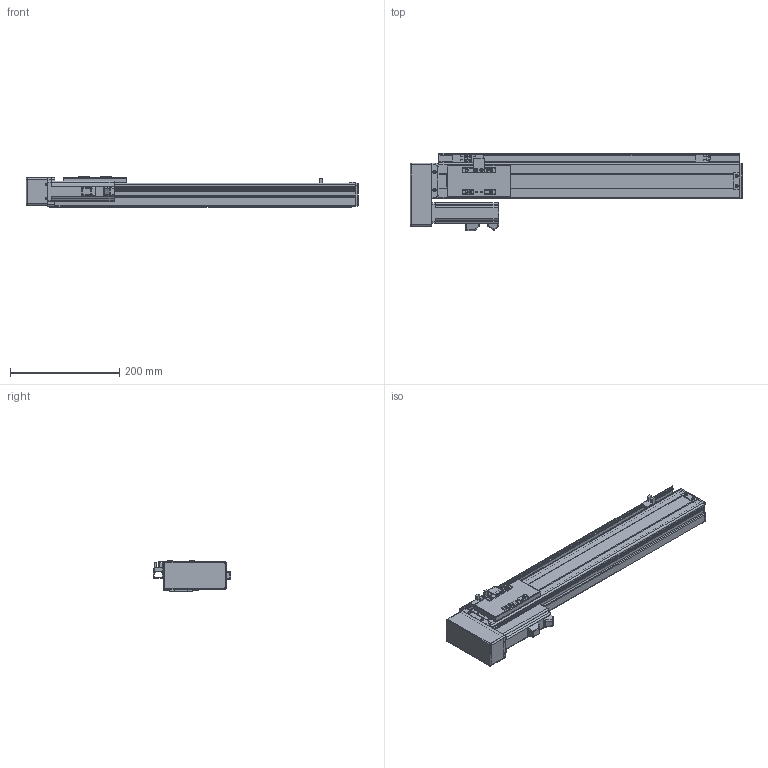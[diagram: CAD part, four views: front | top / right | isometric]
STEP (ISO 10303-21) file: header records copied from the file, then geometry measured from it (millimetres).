
FILE_DESCRIPTION (( 'STEP AP203' ), '1' );
FILE_NAME ('VT6-S400-BL.STEP', '2016-06-17T09:49:02', ( '' ), ( '' ), 'SwSTEP 2.0', 'SolidWorks 2013', '' );
FILE_SCHEMA (( 'CONFIG_CONTROL_DESIGN' ));
Length unit declared in the file: millimetre
Products named in the file (17): T6-BMRLヶ傷裔揤啣; T6-揤輸; T6-BMRL肮祭湍謫欶; T6-覜茼え; T6-BRL萇儂假蚾啣; T6-綴傷裔; 侂狟100W MSMD012G1V; EE-XS674; VT6-S400-BL; ET6-BLRM絳寢_俴最400; ET6-BC耜啣_400; ET6-BLRM滅鳥湍_400; ET6-BC癹弇羲壽羞_400; ET6-BLRM佪裝_400; T6-賑雄殤; T6-BMLRヶ傷裔; T6-裔啣
Assembly tree (19 placements, depth 2):
  VT6-S400-BL
    ET6-BC耜啣_400  x2
    ET6-BC癹弇羲壽羞_400
    T6-賑雄殤
    T6-裔啣
    T6-揤輸
    T6-覜茼え
    T6-綴傷裔
    EE-XS674  x3
    ET6-BLRM絳寢_俴最400
    ET6-BLRM滅鳥湍_400
    ET6-BLRM佪裝_400
    T6-BMLRヶ傷裔
    T6-BMRLヶ傷裔揤啣
    T6-BMRL肮祭湍謫欶
    T6-BRL萇儂假蚾啣
    侂狟100W MSMD012G1V
Bounding box: 607 x 141 x 56 mm (x, y, z)
Volume: 817365 mm3; surface area: 485292.2 mm2
Topology: 19 solids, 19 shells, 897 faces, 2376 edges, 1504 vertices
Faces by surface type: cylinder 423, plane 374, cone 46, torus 36, sphere 18
Entity records: 27693 total; most frequent: CARTESIAN_POINT 4657, DIRECTION 4630, ORIENTED_EDGE 4270, EDGE_CURVE 2135, AXIS2_PLACEMENT_3D 1697, VERTEX_POINT 1364, LINE 1236, VECTOR 1236
